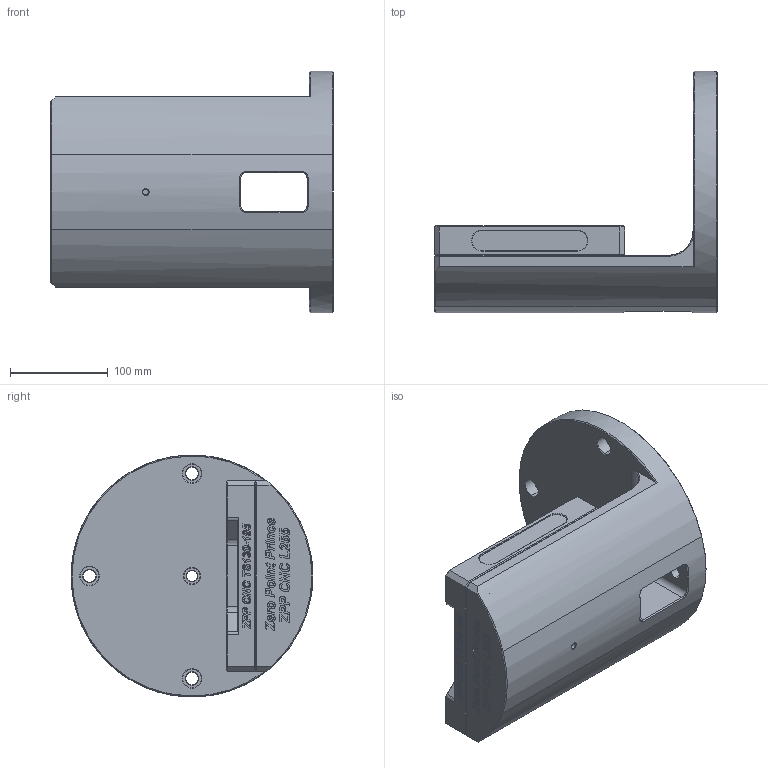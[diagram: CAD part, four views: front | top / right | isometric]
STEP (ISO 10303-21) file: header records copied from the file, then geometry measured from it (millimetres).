
FILE_DESCRIPTION((''),'2;1');
FILE_NAME('L255_ASM','2025-12-11T14:31:29',('XF'),(''),'CREO PARAMETRIC BY PTC INC, 2023073','CREO PARAMETRIC BY PTC INC, 2023073','');
FILE_SCHEMA(('CONFIG_CONTROL_DESIGN'));
Length unit declared in the file: millimetre
Products named in the file (3): QB-L255; PRT0004; L255_ASM
Assembly tree (2 placements, depth 2):
  L255_ASM
    QB-L255
    PRT0004
Bounding box: 290 x 248 x 247.94 mm (x, y, z)
Volume: 4317649.7 mm3; surface area: 382027.7 mm2
Topology: 2 solids, 30 shells, 1610 faces, 4402 edges, 2908 vertices
Faces by surface type: extrusion 655, plane 534, cylinder 231, cone 174, bspline 8, torus 8
Entity records: 54961 total; most frequent: CARTESIAN_POINT 16148, ORIENTED_EDGE 8604, DIRECTION 6377, EDGE_CURVE 4358, VERTEX_POINT 2908, VECTOR 2853, LINE 2198, B_SPLINE_CURVE_WITH_KNOTS 2009
